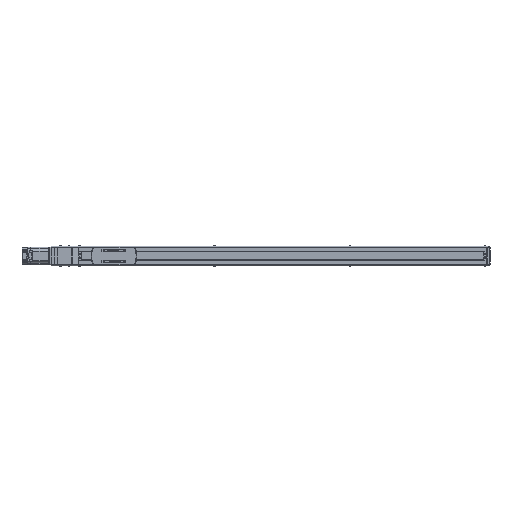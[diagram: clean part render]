
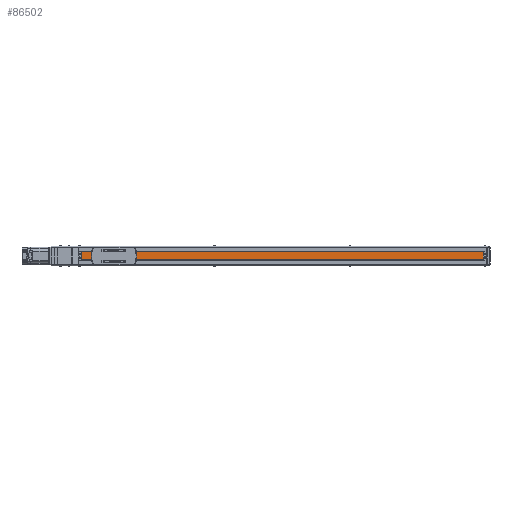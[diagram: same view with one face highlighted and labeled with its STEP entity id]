
A CAD part, top view. The second image highlights one B-rep face of the part: STEP entity #86502.
In plain terms, the highlighted planar face has unit normal (0, 0, 1) as drawn and (0, 1, 0) by its records, which use the part's own axes.
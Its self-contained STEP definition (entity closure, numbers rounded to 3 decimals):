
#86502 = ADVANCED_FACE('',(#86503),#86517,.T.);
#86503 = FACE_BOUND('',#86504,.T.);
#86504 = EDGE_LOOP('',(#86505,#86540,#86568,#86596));
#86505 = ORIENTED_EDGE('',*,*,#86506,.F.);
#86506 = EDGE_CURVE('',#86507,#86509,#86511,.T.);
#86507 = VERTEX_POINT('',#86508);
#86508 = CARTESIAN_POINT('',(-1330.5,18.,-13.));
#86509 = VERTEX_POINT('',#86510);
#86510 = CARTESIAN_POINT('',(-21.5,18.,-13.));
#86511 = SURFACE_CURVE('',#86512,(#86516,#86528),.PCURVE_S1.);
#86512 = LINE('',#86513,#86514);
#86513 = CARTESIAN_POINT('',(-1330.5,18.,-13.));
#86514 = VECTOR('',#86515,1.);
#86515 = DIRECTION('',(1.,0.,0.));
#86516 = PCURVE('',#86517,#86522);
#86517 = PLANE('',#86518);
#86518 = AXIS2_PLACEMENT_3D('',#86519,#86520,#86521);
#86519 = CARTESIAN_POINT('',(-1340.5,18.,-26.583));
#86520 = DIRECTION('',(0.,1.,0.));
#86521 = DIRECTION('',(0.,-0.,1.));
#86522 = DEFINITIONAL_REPRESENTATION('',(#86523),#86527);
#86523 = LINE('',#86524,#86525);
#86524 = CARTESIAN_POINT('',(13.583,10.));
#86525 = VECTOR('',#86526,1.);
#86526 = DIRECTION('',(0.,1.));
#86527 = ( GEOMETRIC_REPRESENTATION_CONTEXT(2) 
PARAMETRIC_REPRESENTATION_CONTEXT() REPRESENTATION_CONTEXT('2D SPACE',''
  ) );
#86528 = PCURVE('',#86529,#86534);
#86529 = PLANE('',#86530);
#86530 = AXIS2_PLACEMENT_3D('',#86531,#86532,#86533);
#86531 = CARTESIAN_POINT('',(-1330.5,18.,-13.));
#86532 = DIRECTION('',(0.,0.,1.));
#86533 = DIRECTION('',(1.,0.,-0.));
#86534 = DEFINITIONAL_REPRESENTATION('',(#86535),#86539);
#86535 = LINE('',#86536,#86537);
#86536 = CARTESIAN_POINT('',(0.,0.));
#86537 = VECTOR('',#86538,1.);
#86538 = DIRECTION('',(1.,0.));
#86539 = ( GEOMETRIC_REPRESENTATION_CONTEXT(2) 
PARAMETRIC_REPRESENTATION_CONTEXT() REPRESENTATION_CONTEXT('2D SPACE',''
  ) );
#86540 = ORIENTED_EDGE('',*,*,#86541,.T.);
#86541 = EDGE_CURVE('',#86507,#86542,#86544,.T.);
#86542 = VERTEX_POINT('',#86543);
#86543 = CARTESIAN_POINT('',(-1330.5,18.,13.));
#86544 = SURFACE_CURVE('',#86545,(#86549,#86556),.PCURVE_S1.);
#86545 = LINE('',#86546,#86547);
#86546 = CARTESIAN_POINT('',(-1330.5,18.,-26.583));
#86547 = VECTOR('',#86548,1.);
#86548 = DIRECTION('',(0.,0.,1.));
#86549 = PCURVE('',#86517,#86550);
#86550 = DEFINITIONAL_REPRESENTATION('',(#86551),#86555);
#86551 = LINE('',#86552,#86553);
#86552 = CARTESIAN_POINT('',(0.,10.));
#86553 = VECTOR('',#86554,1.);
#86554 = DIRECTION('',(1.,0.));
#86555 = ( GEOMETRIC_REPRESENTATION_CONTEXT(2) 
PARAMETRIC_REPRESENTATION_CONTEXT() REPRESENTATION_CONTEXT('2D SPACE',''
  ) );
#86556 = PCURVE('',#86557,#86562);
#86557 = PLANE('',#86558);
#86558 = AXIS2_PLACEMENT_3D('',#86559,#86560,#86561);
#86559 = CARTESIAN_POINT('',(-1330.5,0.,0.));
#86560 = DIRECTION('',(1.,0.,0.));
#86561 = DIRECTION('',(0.,0.,-1.));
#86562 = DEFINITIONAL_REPRESENTATION('',(#86563),#86567);
#86563 = LINE('',#86564,#86565);
#86564 = CARTESIAN_POINT('',(26.583,18.));
#86565 = VECTOR('',#86566,1.);
#86566 = DIRECTION('',(-1.,0.));
#86567 = ( GEOMETRIC_REPRESENTATION_CONTEXT(2) 
PARAMETRIC_REPRESENTATION_CONTEXT() REPRESENTATION_CONTEXT('2D SPACE',''
  ) );
#86568 = ORIENTED_EDGE('',*,*,#86569,.T.);
#86569 = EDGE_CURVE('',#86542,#86570,#86572,.T.);
#86570 = VERTEX_POINT('',#86571);
#86571 = CARTESIAN_POINT('',(-21.5,18.,13.));
#86572 = SURFACE_CURVE('',#86573,(#86577,#86584),.PCURVE_S1.);
#86573 = LINE('',#86574,#86575);
#86574 = CARTESIAN_POINT('',(-1330.5,18.,13.));
#86575 = VECTOR('',#86576,1.);
#86576 = DIRECTION('',(1.,0.,0.));
#86577 = PCURVE('',#86517,#86578);
#86578 = DEFINITIONAL_REPRESENTATION('',(#86579),#86583);
#86579 = LINE('',#86580,#86581);
#86580 = CARTESIAN_POINT('',(39.583,10.));
#86581 = VECTOR('',#86582,1.);
#86582 = DIRECTION('',(0.,1.));
#86583 = ( GEOMETRIC_REPRESENTATION_CONTEXT(2) 
PARAMETRIC_REPRESENTATION_CONTEXT() REPRESENTATION_CONTEXT('2D SPACE',''
  ) );
#86584 = PCURVE('',#86585,#86590);
#86585 = PLANE('',#86586);
#86586 = AXIS2_PLACEMENT_3D('',#86587,#86588,#86589);
#86587 = CARTESIAN_POINT('',(-1330.5,15.,13.));
#86588 = DIRECTION('',(0.,0.,-1.));
#86589 = DIRECTION('',(-1.,0.,0.));
#86590 = DEFINITIONAL_REPRESENTATION('',(#86591),#86595);
#86591 = LINE('',#86592,#86593);
#86592 = CARTESIAN_POINT('',(0.,3.));
#86593 = VECTOR('',#86594,1.);
#86594 = DIRECTION('',(-1.,0.));
#86595 = ( GEOMETRIC_REPRESENTATION_CONTEXT(2) 
PARAMETRIC_REPRESENTATION_CONTEXT() REPRESENTATION_CONTEXT('2D SPACE',''
  ) );
#86596 = ORIENTED_EDGE('',*,*,#86597,.T.);
#86597 = EDGE_CURVE('',#86570,#86509,#86598,.T.);
#86598 = SURFACE_CURVE('',#86599,(#86603,#86610),.PCURVE_S1.);
#86599 = LINE('',#86600,#86601);
#86600 = CARTESIAN_POINT('',(-21.5,18.,-26.583));
#86601 = VECTOR('',#86602,1.);
#86602 = DIRECTION('',(0.,0.,-1.));
#86603 = PCURVE('',#86517,#86604);
#86604 = DEFINITIONAL_REPRESENTATION('',(#86605),#86609);
#86605 = LINE('',#86606,#86607);
#86606 = CARTESIAN_POINT('',(0.,1319.));
#86607 = VECTOR('',#86608,1.);
#86608 = DIRECTION('',(-1.,0.));
#86609 = ( GEOMETRIC_REPRESENTATION_CONTEXT(2) 
PARAMETRIC_REPRESENTATION_CONTEXT() REPRESENTATION_CONTEXT('2D SPACE',''
  ) );
#86610 = PCURVE('',#86611,#86616);
#86611 = PLANE('',#86612);
#86612 = AXIS2_PLACEMENT_3D('',#86613,#86614,#86615);
#86613 = CARTESIAN_POINT('',(-21.5,0.,0.));
#86614 = DIRECTION('',(1.,0.,0.));
#86615 = DIRECTION('',(0.,0.,-1.));
#86616 = DEFINITIONAL_REPRESENTATION('',(#86617),#86621);
#86617 = LINE('',#86618,#86619);
#86618 = CARTESIAN_POINT('',(26.583,18.));
#86619 = VECTOR('',#86620,1.);
#86620 = DIRECTION('',(1.,0.));
#86621 = ( GEOMETRIC_REPRESENTATION_CONTEXT(2) 
PARAMETRIC_REPRESENTATION_CONTEXT() REPRESENTATION_CONTEXT('2D SPACE',''
  ) );
